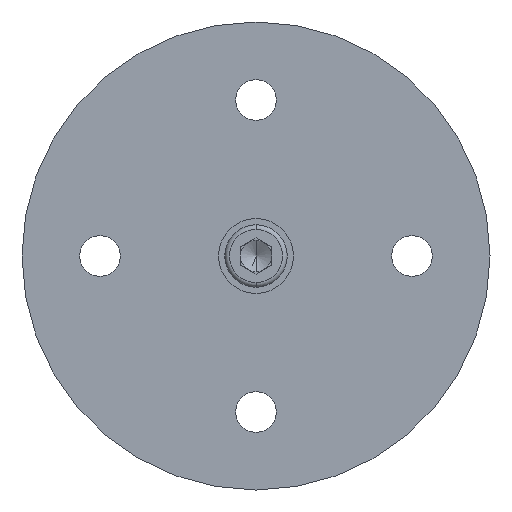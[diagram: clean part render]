
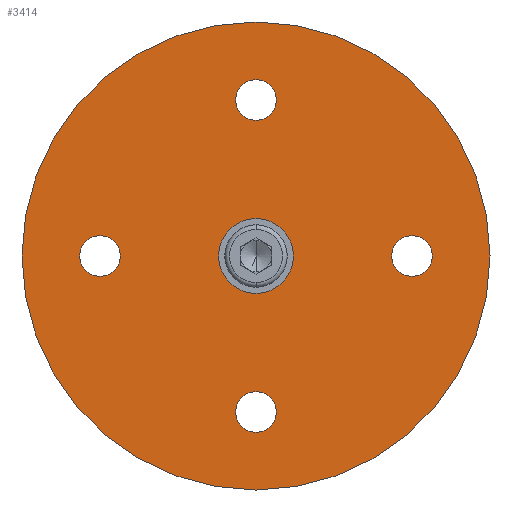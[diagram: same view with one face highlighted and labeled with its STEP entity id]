
A CAD part, front view. The second image highlights one B-rep face of the part: STEP entity #3414.
In plain terms, the highlighted planar face has unit normal (0, -1, 0).
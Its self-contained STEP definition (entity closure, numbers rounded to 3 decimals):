
#136 = ORIENTED_EDGE ( 'NONE', *, *, #2981, .T. ) ;
#140 = FACE_BOUND ( 'NONE', #4141, .T. ) ;
#175 = AXIS2_PLACEMENT_3D ( 'NONE', #3103, #529, #2445 ) ;
#195 = ORIENTED_EDGE ( 'NONE', *, *, #473, .F. ) ;
#234 = CARTESIAN_POINT ( 'NONE',  ( 1., -15.168, 25. ) ) ;
#289 = CIRCLE ( 'NONE', #1971, 3.25 ) ;
#293 = ORIENTED_EDGE ( 'NONE', *, *, #1990, .T. ) ;
#304 = VERTEX_POINT ( 'NONE', #2630 ) ;
#312 = DIRECTION ( 'NONE',  ( 0., 1., 0. ) ) ;
#350 = ORIENTED_EDGE ( 'NONE', *, *, #2351, .T. ) ;
#398 = CIRCLE ( 'NONE', #3306, 3.25 ) ;
#462 = DIRECTION ( 'NONE',  ( -1., 0., 0. ) ) ;
#466 = EDGE_CURVE ( 'NONE', #1464, #4020, #4138, .T. ) ;
#473 = EDGE_CURVE ( 'NONE', #3858, #304, #1945, .T. ) ;
#506 = CARTESIAN_POINT ( 'NONE',  ( 1., -15.168, 0. ) ) ;
#529 = DIRECTION ( 'NONE',  ( 0., 1., 0. ) ) ;
#573 = DIRECTION ( 'NONE',  ( 0., 0., 1. ) ) ;
#605 = VERTEX_POINT ( 'NONE', #2113 ) ;
#610 = DIRECTION ( 'NONE',  ( -1., 0., 0. ) ) ;
#728 = CARTESIAN_POINT ( 'NONE',  ( 1., -15.168, 0. ) ) ;
#744 = FACE_BOUND ( 'NONE', #2237, .T. ) ;
#769 = VERTEX_POINT ( 'NONE', #3984 ) ;
#816 = DIRECTION ( 'NONE',  ( 0., -1., 0. ) ) ;
#907 = DIRECTION ( 'NONE',  ( 0., 1., 0. ) ) ;
#947 = DIRECTION ( 'NONE',  ( 0., 1., 0. ) ) ;
#996 = DIRECTION ( 'NONE',  ( 0., 1., 0. ) ) ;
#1032 = CIRCLE ( 'NONE', #3401, 3.25 ) ;
#1077 = EDGE_CURVE ( 'NONE', #2317, #4036, #1032, .T. ) ;
#1185 = AXIS2_PLACEMENT_3D ( 'NONE', #2631, #996, #3553 ) ;
#1240 = CARTESIAN_POINT ( 'NONE',  ( 1., -15.168, -21.75 ) ) ;
#1293 = DIRECTION ( 'NONE',  ( 0., 1., 0. ) ) ;
#1309 = FACE_BOUND ( 'NONE', #1614, .T. ) ;
#1390 = AXIS2_PLACEMENT_3D ( 'NONE', #728, #2046, #462 ) ;
#1399 = AXIS2_PLACEMENT_3D ( 'NONE', #2501, #2241, #1590 ) ;
#1464 = VERTEX_POINT ( 'NONE', #2854 ) ;
#1587 = CARTESIAN_POINT ( 'NONE',  ( 1., -15.168, -25. ) ) ;
#1590 = DIRECTION ( 'NONE',  ( 1., 0., 0. ) ) ;
#1599 = EDGE_CURVE ( 'NONE', #3542, #769, #3928, .T. ) ;
#1614 = EDGE_LOOP ( 'NONE', ( #136, #3890 ) ) ;
#1619 = ORIENTED_EDGE ( 'NONE', *, *, #466, .F. ) ;
#1667 = CARTESIAN_POINT ( 'NONE',  ( 26., -15.168, -3.25 ) ) ;
#1925 = DIRECTION ( 'NONE',  ( 0., 0., 1. ) ) ;
#1945 = CIRCLE ( 'NONE', #3856, 6. ) ;
#1951 = EDGE_CURVE ( 'NONE', #4036, #2317, #2708, .T. ) ;
#1971 = AXIS2_PLACEMENT_3D ( 'NONE', #3693, #3653, #3979 ) ;
#1990 = EDGE_CURVE ( 'NONE', #769, #3542, #2401, .T. ) ;
#2035 = VERTEX_POINT ( 'NONE', #4169 ) ;
#2046 = DIRECTION ( 'NONE',  ( 0., 1., 0. ) ) ;
#2101 = ORIENTED_EDGE ( 'NONE', *, *, #1077, .T. ) ;
#2113 = CARTESIAN_POINT ( 'NONE',  ( 1., -15.168, 28.25 ) ) ;
#2172 = CIRCLE ( 'NONE', #1185, 3.25 ) ;
#2189 = ORIENTED_EDGE ( 'NONE', *, *, #2696, .F. ) ;
#2227 = CARTESIAN_POINT ( 'NONE',  ( 1., -15.168, 0. ) ) ;
#2231 = CIRCLE ( 'NONE', #3885, 3.25 ) ;
#2237 = EDGE_LOOP ( 'NONE', ( #2189, #195 ) ) ;
#2241 = DIRECTION ( 'NONE',  ( 0., -1., 0. ) ) ;
#2303 = EDGE_LOOP ( 'NONE', ( #350, #3781 ) ) ;
#2317 = VERTEX_POINT ( 'NONE', #1240 ) ;
#2351 = EDGE_CURVE ( 'NONE', #605, #3902, #398, .T. ) ;
#2380 = ORIENTED_EDGE ( 'NONE', *, *, #1599, .T. ) ;
#2401 = CIRCLE ( 'NONE', #3334, 3.25 ) ;
#2427 = CARTESIAN_POINT ( 'NONE',  ( 1., -15.168, 21.75 ) ) ;
#2445 = DIRECTION ( 'NONE',  ( -1., 0., 0. ) ) ;
#2447 = VERTEX_POINT ( 'NONE', #2792 ) ;
#2482 = DIRECTION ( 'NONE',  ( 1., 0., 0. ) ) ;
#2501 = CARTESIAN_POINT ( 'NONE',  ( 1., -15.168, 0. ) ) ;
#2503 = CARTESIAN_POINT ( 'NONE',  ( 26., -15.168, 0. ) ) ;
#2535 = FACE_BOUND ( 'NONE', #3934, .T. ) ;
#2546 = DIRECTION ( 'NONE',  ( 0., 1., 0. ) ) ;
#2618 = EDGE_LOOP ( 'NONE', ( #3508, #1619 ) ) ;
#2621 = CARTESIAN_POINT ( 'NONE',  ( 1., -15.168, -28.25 ) ) ;
#2630 = CARTESIAN_POINT ( 'NONE',  ( 7., -15.168, 0. ) ) ;
#2631 = CARTESIAN_POINT ( 'NONE',  ( -24., -15.168, 0. ) ) ;
#2654 = EDGE_CURVE ( 'NONE', #3902, #605, #2231, .T. ) ;
#2696 = EDGE_CURVE ( 'NONE', #304, #3858, #4006, .T. ) ;
#2701 = EDGE_CURVE ( 'NONE', #2447, #2035, #2172, .T. ) ;
#2708 = CIRCLE ( 'NONE', #3416, 3.25 ) ;
#2727 = CIRCLE ( 'NONE', #1390, 37.5 ) ;
#2780 = CARTESIAN_POINT ( 'NONE',  ( -5., -15.168, 0. ) ) ;
#2792 = CARTESIAN_POINT ( 'NONE',  ( -24., -15.168, -3.25 ) ) ;
#2822 = DIRECTION ( 'NONE',  ( 0., 1., 0. ) ) ;
#2854 = CARTESIAN_POINT ( 'NONE',  ( 38.5, -15.168, 0. ) ) ;
#2888 = CARTESIAN_POINT ( 'NONE',  ( 1., -15.168, -25. ) ) ;
#2981 = EDGE_CURVE ( 'NONE', #2035, #2447, #289, .T. ) ;
#3081 = ORIENTED_EDGE ( 'NONE', *, *, #1951, .T. ) ;
#3103 = CARTESIAN_POINT ( 'NONE',  ( 1., -15.168, 0. ) ) ;
#3152 = DIRECTION ( 'NONE',  ( 0., 0., 1. ) ) ;
#3210 = CARTESIAN_POINT ( 'NONE',  ( 26., -15.168, 0. ) ) ;
#3240 = DIRECTION ( 'NONE',  ( 0., 0., 1. ) ) ;
#3292 = FACE_OUTER_BOUND ( 'NONE', #2618, .T. ) ;
#3306 = AXIS2_PLACEMENT_3D ( 'NONE', #3876, #1293, #3240 ) ;
#3334 = AXIS2_PLACEMENT_3D ( 'NONE', #2503, #2822, #3152 ) ;
#3401 = AXIS2_PLACEMENT_3D ( 'NONE', #1587, #4187, #1925 ) ;
#3414 = ADVANCED_FACE ( 'NONE', ( #744, #2535, #4151, #1309, #140, #3292 ), #3845, .F. ) ;
#3416 = AXIS2_PLACEMENT_3D ( 'NONE', #2888, #947, #573 ) ;
#3450 = DIRECTION ( 'NONE',  ( 0., 0., 1. ) ) ;
#3508 = ORIENTED_EDGE ( 'NONE', *, *, #3613, .F. ) ;
#3542 = VERTEX_POINT ( 'NONE', #1667 ) ;
#3553 = DIRECTION ( 'NONE',  ( 0., 0., 1. ) ) ;
#3555 = AXIS2_PLACEMENT_3D ( 'NONE', #2227, #312, #610 ) ;
#3613 = EDGE_CURVE ( 'NONE', #4020, #1464, #2727, .T. ) ;
#3653 = DIRECTION ( 'NONE',  ( 0., 1., 0. ) ) ;
#3693 = CARTESIAN_POINT ( 'NONE',  ( -24., -15.168, 0. ) ) ;
#3781 = ORIENTED_EDGE ( 'NONE', *, *, #2654, .T. ) ;
#3811 = DIRECTION ( 'NONE',  ( 0., 0., 1. ) ) ;
#3845 = PLANE ( 'NONE',  #3555 ) ;
#3856 = AXIS2_PLACEMENT_3D ( 'NONE', #506, #816, #2482 ) ;
#3858 = VERTEX_POINT ( 'NONE', #2780 ) ;
#3876 = CARTESIAN_POINT ( 'NONE',  ( 1., -15.168, 25. ) ) ;
#3881 = CARTESIAN_POINT ( 'NONE',  ( -36.5, -15.168, 0. ) ) ;
#3885 = AXIS2_PLACEMENT_3D ( 'NONE', #234, #907, #3450 ) ;
#3890 = ORIENTED_EDGE ( 'NONE', *, *, #2701, .T. ) ;
#3902 = VERTEX_POINT ( 'NONE', #2427 ) ;
#3928 = CIRCLE ( 'NONE', #4195, 3.25 ) ;
#3934 = EDGE_LOOP ( 'NONE', ( #2101, #3081 ) ) ;
#3979 = DIRECTION ( 'NONE',  ( 0., 0., 1. ) ) ;
#3984 = CARTESIAN_POINT ( 'NONE',  ( 26., -15.168, 3.25 ) ) ;
#4006 = CIRCLE ( 'NONE', #1399, 6. ) ;
#4020 = VERTEX_POINT ( 'NONE', #3881 ) ;
#4036 = VERTEX_POINT ( 'NONE', #2621 ) ;
#4138 = CIRCLE ( 'NONE', #175, 37.5 ) ;
#4141 = EDGE_LOOP ( 'NONE', ( #293, #2380 ) ) ;
#4151 = FACE_BOUND ( 'NONE', #2303, .T. ) ;
#4169 = CARTESIAN_POINT ( 'NONE',  ( -24., -15.168, 3.25 ) ) ;
#4187 = DIRECTION ( 'NONE',  ( 0., 1., 0. ) ) ;
#4195 = AXIS2_PLACEMENT_3D ( 'NONE', #3210, #2546, #3811 ) ;
